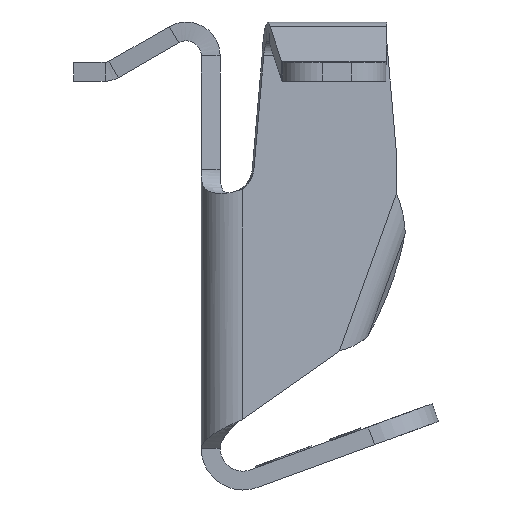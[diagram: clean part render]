
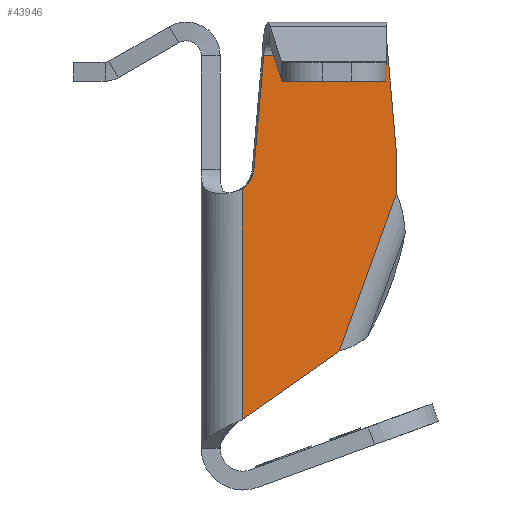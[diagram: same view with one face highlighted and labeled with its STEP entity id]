
A CAD part, left-side view. The second image highlights one B-rep face of the part: STEP entity #43946.
In plain terms, the highlighted planar face has unit normal (-0.996, -0.087, 0).
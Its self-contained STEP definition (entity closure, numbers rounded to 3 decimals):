
#27491=CARTESIAN_POINT(' ',(-1.398,-0.344,0.385));
#27492=VERTEX_POINT(' ',#27491);
#34326=CARTESIAN_POINT(' ',(-1.294,-1.537,1.223));
#34327=VERTEX_POINT(' ',#34326);
#34341=CARTESIAN_POINT(' ',(-1.398,-0.344,0.385));
#34346=DIRECTION(' ',(0.071,-0.816,0.574));
#34351=VECTOR(' ',#34346,1.);
#34356=LINE('',#34341,#34351);
#34361=EDGE_CURVE(' ',#27492,#34327,#34356,.T.);
#34616=CARTESIAN_POINT(' ',(-1.398,-0.344,3.439));
#34621=DIRECTION(' ',(0.,0.,-1.));
#34626=VECTOR(' ',#34621,1.);
#34631=LINE('',#34616,#34626);
#34636=CARTESIAN_POINT(' ',(-1.398,-0.344,3.439));
#34637=VERTEX_POINT(' ',#34636);
#34641=EDGE_CURVE(' ',#34637,#27492,#34631,.T.);
#43421=CARTESIAN_POINT(' ',(-1.285,-1.631,1.293));
#43422=VERTEX_POINT(' ',#43421);
#43436=CARTESIAN_POINT(' ',(-1.294,-1.537,1.223));
#43441=DIRECTION(' ',(0.07,-0.799,0.597));
#43446=VECTOR(' ',#43441,1.);
#43451=LINE('',#43436,#43446);
#43456=EDGE_CURVE(' ',#34327,#43422,#43451,.T.);
#43686=DIRECTION(' ',(-0.996,-0.087,0.));
#43691=CARTESIAN_POINT(' ',(-1.219,-2.387,0.385));
#43696=DIRECTION(' ',(0.,0.,1.));
#43701=AXIS2_PLACEMENT_3D(' ',#43691,#43686,#43696);
#43706=PLANE('',#43701);
#43711=CARTESIAN_POINT(' ',(-1.219,-2.387,3.378));
#43716=DIRECTION(' ',(-0.03,0.341,-0.94));
#43721=VECTOR(' ',#43716,1.);
#43726=LINE('',#43711,#43721);
#43731=CARTESIAN_POINT(' ',(-1.219,-2.387,3.378));
#43732=VERTEX_POINT(' ',#43731);
#43736=EDGE_CURVE(' ',#43732,#43422,#43726,.T.);
#43741=ORIENTED_EDGE(' ',*,*,#43736,.F.);
#43746=CARTESIAN_POINT(' ',(-1.219,-2.387,3.378));
#43751=DIRECTION(' ',(0.,0.,1.));
#43756=VECTOR(' ',#43751,1.);
#43761=LINE('',#43746,#43756);
#43766=CARTESIAN_POINT(' ',(-1.219,-2.387,3.9));
#43767=VERTEX_POINT(' ',#43766);
#43771=EDGE_CURVE(' ',#43732,#43767,#43761,.T.);
#43776=ORIENTED_EDGE(' ',*,*,#43771,.T.);
#43781=CARTESIAN_POINT(' ',(-1.219,-2.387,3.9));
#43786=DIRECTION(' ',(-0.008,0.087,0.996));
#43791=VECTOR(' ',#43786,1.);
#43796=LINE('',#43781,#43791);
#43801=CARTESIAN_POINT(' ',(-1.229,-2.273,5.2));
#43802=VERTEX_POINT(' ',#43801);
#43806=EDGE_CURVE(' ',#43767,#43802,#43796,.T.);
#43811=ORIENTED_EDGE(' ',*,*,#43806,.T.);
#43816=CARTESIAN_POINT(' ',(-1.373,-0.627,5.2));
#43821=DIRECTION(' ',(0.087,-0.996,0.));
#43826=VECTOR(' ',#43821,1.);
#43831=LINE('',#43816,#43826);
#43836=CARTESIAN_POINT(' ',(-1.373,-0.627,5.2));
#43837=VERTEX_POINT(' ',#43836);
#43841=EDGE_CURVE(' ',#43837,#43802,#43831,.T.);
#43846=ORIENTED_EDGE(' ',*,*,#43841,.F.);
#43851=CARTESIAN_POINT(' ',(-1.373,-0.627,5.2));
#43856=DIRECTION(' ',(-0.008,0.087,-0.996));
#43861=VECTOR(' ',#43856,1.);
#43866=LINE('',#43851,#43861);
#43871=CARTESIAN_POINT(' ',(-1.385,-0.496,3.7));
#43872=VERTEX_POINT(' ',#43871);
#43876=EDGE_CURVE(' ',#43837,#43872,#43866,.T.);
#43881=ORIENTED_EDGE(' ',*,*,#43876,.T.);
#43886=CARTESIAN_POINT(' ',(-1.415,-0.146,3.731));
#43891=DIRECTION(' ',(0.996,0.087,0.));
#43896=DIRECTION(' ',(0.087,-0.992,-0.087));
#43901=AXIS2_PLACEMENT_3D(' ',#43886,#43891,#43896);
#43906=CIRCLE('',#43901,0.353);
#43911=EDGE_CURVE(' ',#43872,#34637,#43906,.T.);
#43916=ORIENTED_EDGE(' ',*,*,#43911,.T.);
#43921=ORIENTED_EDGE(' ',*,*,#34641,.T.);
#43926=ORIENTED_EDGE(' ',*,*,#34361,.T.);
#43931=ORIENTED_EDGE(' ',*,*,#43456,.T.);
#43936=EDGE_LOOP(' ',(#43741,#43776,#43811,#43846,#43881,#43916,#43921,#43926,#43931));
#43941=FACE_OUTER_BOUND(' ',#43936,.T.);
#43946=ADVANCED_FACE('',(#43941),#43706,.T.);
